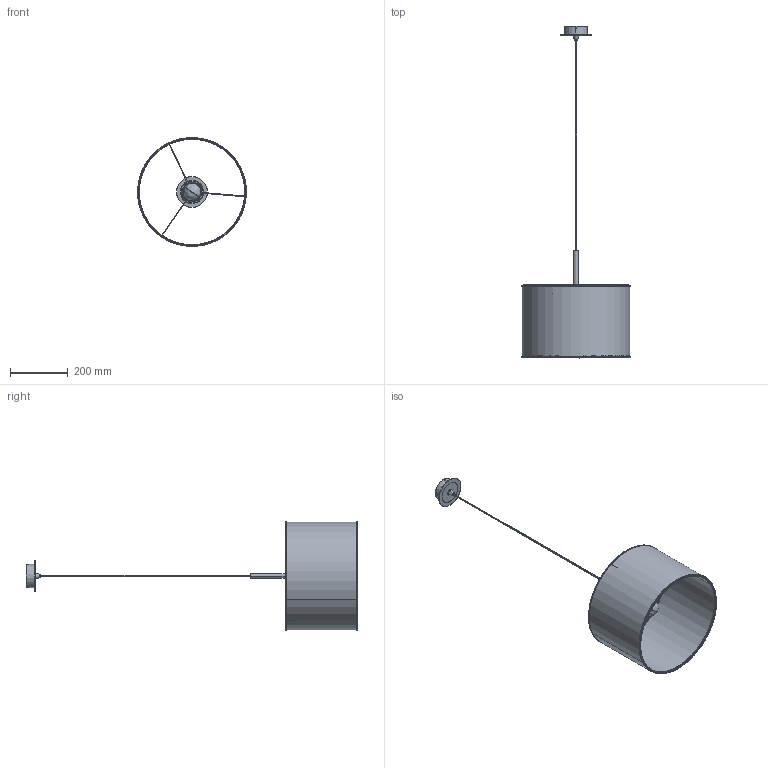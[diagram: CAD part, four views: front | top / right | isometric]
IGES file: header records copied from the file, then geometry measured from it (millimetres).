
Start section: SolidWorks IGES file using analytic representation for surfaces
Bounding box: 376.51 x 1149.26 x 376.54 mm (x, y, z)
Surface area: 821284.8 mm2 (no closed solid volume)
Topology: 0 solids, 0 shells, 382 faces, 5725 edges, 5705 vertices
Faces by surface type: revolution 213, bspline 169
